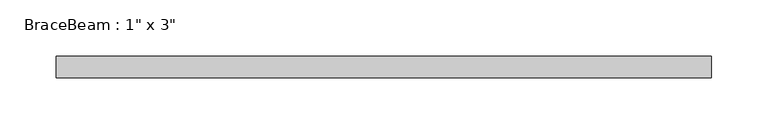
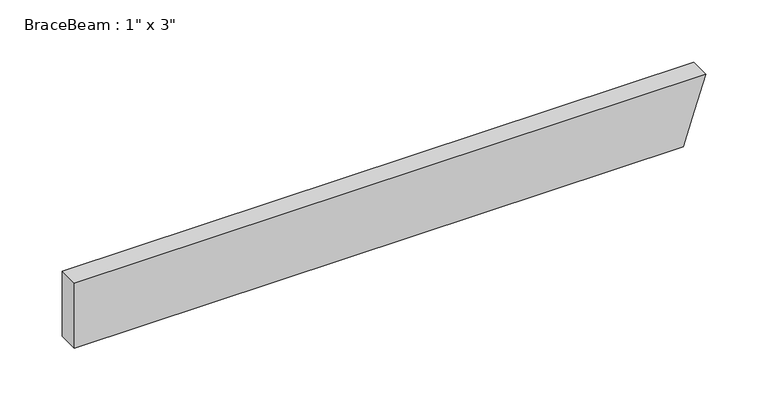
"""IFC4 building model written with IfcOpenShell, lengths in millimetres: beam geometry."""

from ifc_helpers import new_model, si_unit, origin, place, context, project, spatial, faceted_brep, source, transform, mapped, element, save


def beam_a51ce868(model_context):
    return source(origin(), model_context, "Body", "Brep", [
        faceted_brep([(-287.230535, 9.525, -31.75), (275.219318, 9.525, -31.75), (275.219318, -9.525, -31.75), (-287.230535, -9.525, -31.75), (285.5821653, -9.525, 0.0), (295.9450125, -9.525, 31.75), (-287.230535, -9.525, 31.75), (295.9450125, 9.525, 31.75), (-287.230535, 9.525, 31.75), (285.5821653, 9.525, 0.0)], [[[0, 1, 2, 3]], [[3, 2, 4, 5, 6]], [[6, 5, 7, 8]], [[8, 7, 9, 1, 0]], [[8, 0, 3, 6]], [[5, 4, 2, 1, 9, 7]]]),
    ])


if __name__ == "__main__":
    model = new_model("IFC4")
    model_context = context("Model", 3, world=origin())
    ifc_project = project(units=[si_unit("LENGTHUNIT", "METRE", prefix="MILLI")], contexts=[model_context])
    site = spatial("IfcSite", under=ifc_project)
    building = spatial("IfcBuilding", under=site)
    placement = place(None, origin())
    beam_shape = beam_a51ce868(model_context)
    element("IfcBeam", 1, ObjectType="BraceBeam : 1\" x 3\"", at=placement, inside=building, context=model_context, shape_type="MappedRepresentation", body=[
        mapped(beam_shape, transform((0.0, 0.0, 0.0), x_axis=(1.0, 0.0, 0.0), y_axis=(0.0, 1.0, 0.0), z_axis=(0.0, 0.0, 1.0))),
    ])
    save(model, "model.ifc")
